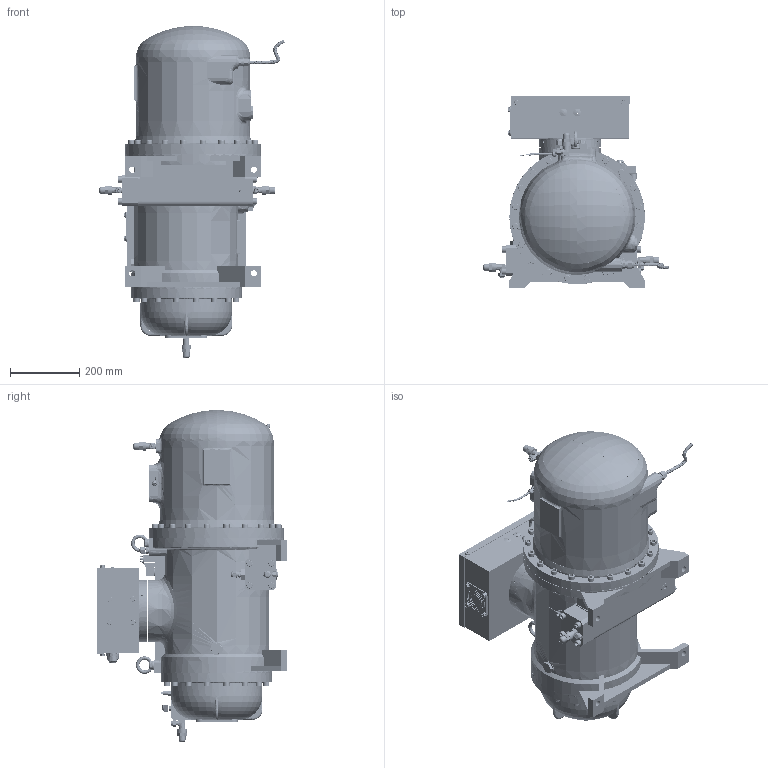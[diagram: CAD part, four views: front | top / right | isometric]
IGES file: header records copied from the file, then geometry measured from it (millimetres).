
Global section: file name: RC2-100(140)A&B outline; native system: Autodesk Inventor 2017; preprocessor: unknown; author: hedylu; date: 20170623.165350; units: millimetre
Bounding box: 537.44 x 552.6 x 960.94 mm (x, y, z)
Surface area: 2202815.5 mm2 (no closed solid volume)
Topology: 0 solids, 0 shells, 2456 faces, 24294 edges, 24280 vertices
Faces by surface type: bspline 1295, revolution 1161
